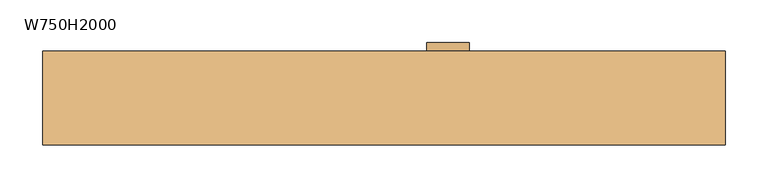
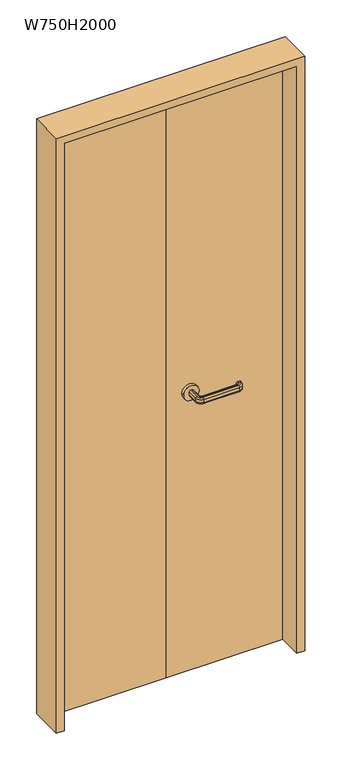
"""IFC4 building model written with IfcOpenShell, lengths in millimetres: door geometry, 両開き : W750H2000."""

from ifc_helpers import new_model, si_unit, point, frame, frame_2d, origin, origin_with_axes, place, context, project, spatial, polyline, circle_curve, ellipse_curve, trimmed, segment, composite_curve, outline, extrude, source, transform, mapped, element, save
from ifc_brep_helpers import plane_surface, cylinder_surface, revolved_surface, advanced_brep


def w750h2000_3b39e6d6(model_context):
    return source(origin(), model_context, "Body", "SolidModel", [
        advanced_brep(
        [(77.0, 15.0, 940.0), (73.0, 15.0, 940.0), (68.0, 15.0, 945.0), (68.0, 15.0, 955.0), (73.0, 15.0, 960.0), (77.0, 15.0, 960.0), (82.0, 15.0, 955.0), (82.0, 15.0, 945.0), (77.0, -20.0, 940.0), (85.0, -28.0, 940.0), (200.0, -28.0, 940.0), (208.0, -20.0, 940.0), (208.0, -15.0, 940.0), (212.0, -15.0, 940.0), (212.0, -20.0, 940.0), (200.0, -32.0, 940.0), (85.0, -32.0, 940.0), (73.0, -20.0, 940.0), (68.0, -20.0, 945.0), (68.0, -20.0, 955.0), (73.0, -20.0, 960.0), (85.0, -32.0, 960.0), (200.0, -32.0, 960.0), (212.0, -20.0, 960.0), (212.0, -15.0, 960.0), (208.0, -15.0, 960.0), (208.0, -20.0, 960.0), (200.0, -28.0, 960.0), (85.0, -28.0, 960.0), (77.0, -20.0, 960.0), (82.0, -20.0, 955.0), (82.0, -20.0, 945.0), (85.0, -37.0, 945.0), (85.0, -37.0, 955.0), (85.0, -23.0, 955.0), (85.0, -23.0, 945.0), (200.0, -37.0, 945.0), (200.0, -37.0, 955.0), (200.0, -23.0, 955.0), (200.0, -23.0, 945.0), (217.0, -20.0, 945.0), (217.0, -20.0, 955.0), (203.0, -20.0, 955.0), (203.0, -20.0, 945.0), (203.0, -15.0, 945.0), (203.0, -15.0, 955.0), (217.0, -15.0, 955.0), (217.0, -15.0, 945.0)],
        [
            (0, 1),
            (1, 2, circle_curve(frame((73.0, 15.0, 945.0), z_axis=(0.0, 1.0, 0.0), x_axis=(1.0, 0.0, 0.0)), 5.0)),
            (2, 3),
            (3, 4, circle_curve(frame((73.0, 15.0, 955.0), z_axis=(0.0, 1.0, 0.0), x_axis=(1.0, 0.0, 0.0)), 5.0)),
            (4, 5),
            (5, 6, circle_curve(frame((77.0, 15.0, 955.0), z_axis=(0.0, 1.0, 0.0), x_axis=(1.0, 0.0, 0.0)), 5.0)),
            (6, 7),
            (7, 0, circle_curve(frame((77.0, 15.0, 945.0), z_axis=(0.0, 1.0, 0.0), x_axis=(1.0, 0.0, 0.0)), 5.0)),
            (0, 8),
            (8, 9, circle_curve(frame((85.0, -20.0, 940.0), z_axis=(0.0, 0.0, 1.0), x_axis=(-1.0, 0.0, 0.0)), 8.0)),
            (9, 10),
            (10, 11, circle_curve(frame((200.0, -20.0, 940.0), z_axis=(0.0, 0.0, 1.0), x_axis=(0.0, -1.0, 0.0)), 8.0)),
            (11, 12),
            (12, 13),
            (13, 14),
            (14, 15, circle_curve(frame((200.0, -20.0, 940.0), z_axis=(0.0, 0.0, -1.0), x_axis=(0.0, -1.0, 0.0)), 12.0)),
            (15, 16),
            (16, 17, circle_curve(frame((85.0, -20.0, 940.0), z_axis=(0.0, 0.0, -1.0), x_axis=(-1.0, 0.0, 0.0)), 12.0)),
            (17, 1),
            (17, 18, circle_curve(frame((73.0, -20.0, 945.0), z_axis=(0.0, 1.0, 0.0), x_axis=(1.0, 0.0, 0.0)), 5.0)),
            (18, 2),
            (18, 19),
            (19, 3),
            (19, 20, circle_curve(frame((73.0, -20.0, 955.0), z_axis=(0.0, 1.0, 0.0), x_axis=(1.0, 0.0, 0.0)), 5.0)),
            (20, 4),
            (20, 21, circle_curve(frame((85.0, -20.0, 960.0), z_axis=(0.0, 0.0, 1.0), x_axis=(-1.0, 0.0, 0.0)), 12.0)),
            (21, 22),
            (22, 23, circle_curve(frame((200.0, -20.0, 960.0), z_axis=(0.0, 0.0, 1.0), x_axis=(0.0, -1.0, 0.0)), 12.0)),
            (23, 24),
            (24, 25),
            (25, 26),
            (26, 27, circle_curve(frame((200.0, -20.0, 960.0), z_axis=(0.0, 0.0, -1.0), x_axis=(0.0, -1.0, 0.0)), 8.0)),
            (27, 28),
            (28, 29, circle_curve(frame((85.0, -20.0, 960.0), z_axis=(0.0, 0.0, -1.0), x_axis=(-1.0, 0.0, 0.0)), 8.0)),
            (29, 5),
            (29, 30, circle_curve(frame((77.0, -20.0, 955.0), z_axis=(0.0, 1.0, 0.0), x_axis=(1.0, 0.0, 0.0)), 5.0)),
            (30, 6),
            (30, 31),
            (31, 7),
            (31, 8, circle_curve(frame((77.0, -20.0, 945.0), z_axis=(0.0, 1.0, 0.0), x_axis=(1.0, 0.0, 0.0)), 5.0)),
            (32, 18, circle_curve(frame((85.0, -20.0, 945.0), z_axis=(0.0, 0.0, -1.0), x_axis=(-1.0, 0.0, 0.0)), 17.0)),
            (16, 32, circle_curve(frame((85.0, -32.0, 945.0), z_axis=(-1.0, 0.0, 0.0), x_axis=(0.0, 1.0, 0.0)), 5.0)),
            (33, 19, circle_curve(frame((85.0, -20.0, 955.0), z_axis=(0.0, 0.0, -1.0), x_axis=(-1.0, 0.0, 0.0)), 17.0)),
            (32, 33),
            (33, 21, circle_curve(frame((85.0, -32.0, 955.0), z_axis=(-1.0, 0.0, 0.0), x_axis=(0.0, 1.0, 0.0)), 5.0)),
            (34, 30, circle_curve(frame((85.0, -20.0, 955.0), z_axis=(0.0, 0.0, -1.0), x_axis=(-1.0, 0.0, 0.0)), 3.0)),
            (28, 34, circle_curve(frame((85.0, -28.0, 955.0), z_axis=(-1.0, 0.0, 0.0), x_axis=(0.0, 1.0, 0.0)), 5.0)),
            (35, 31, circle_curve(frame((85.0, -20.0, 945.0), z_axis=(0.0, 0.0, -1.0), x_axis=(-1.0, 0.0, 0.0)), 3.0)),
            (34, 35),
            (35, 9, circle_curve(frame((85.0, -28.0, 945.0), z_axis=(-1.0, 0.0, 0.0), x_axis=(0.0, 1.0, 0.0)), 5.0)),
            (15, 36, circle_curve(frame((200.0, -32.0, 945.0), z_axis=(-1.0, 0.0, 0.0), x_axis=(0.0, 1.0, 0.0)), 5.0)),
            (36, 32),
            (36, 37),
            (37, 33),
            (37, 22, circle_curve(frame((200.0, -32.0, 955.0), z_axis=(-1.0, 0.0, 0.0), x_axis=(0.0, 1.0, 0.0)), 5.0)),
            (27, 38, circle_curve(frame((200.0, -28.0, 955.0), z_axis=(-1.0, 0.0, 0.0), x_axis=(0.0, 1.0, 0.0)), 5.0)),
            (38, 34),
            (38, 39),
            (39, 35),
            (39, 10, circle_curve(frame((200.0, -28.0, 945.0), z_axis=(-1.0, 0.0, 0.0), x_axis=(0.0, 1.0, 0.0)), 5.0)),
            (40, 36, circle_curve(frame((200.0, -20.0, 945.0), z_axis=(0.0, 0.0, -1.0), x_axis=(0.0, -1.0, 0.0)), 17.0)),
            (14, 40, circle_curve(frame((212.0, -20.0, 945.0), z_axis=(0.0, -1.0, 0.0), x_axis=(-1.0, 0.0, 0.0)), 5.0)),
            (41, 37, circle_curve(frame((200.0, -20.0, 955.0), z_axis=(0.0, 0.0, -1.0), x_axis=(0.0, -1.0, 0.0)), 17.0)),
            (40, 41),
            (41, 23, circle_curve(frame((212.0, -20.0, 955.0), z_axis=(0.0, -1.0, 0.0), x_axis=(-1.0, 0.0, 0.0)), 5.0)),
            (42, 38, circle_curve(frame((200.0, -20.0, 955.0), z_axis=(0.0, 0.0, -1.0), x_axis=(0.0, -1.0, 0.0)), 3.0)),
            (26, 42, circle_curve(frame((208.0, -20.0, 955.0), z_axis=(0.0, -1.0, 0.0), x_axis=(-1.0, 0.0, 0.0)), 5.0)),
            (43, 39, circle_curve(frame((200.0, -20.0, 945.0), z_axis=(0.0, 0.0, -1.0), x_axis=(0.0, -1.0, 0.0)), 3.0)),
            (42, 43),
            (43, 11, circle_curve(frame((208.0, -20.0, 945.0), z_axis=(0.0, -1.0, 0.0), x_axis=(-1.0, 0.0, 0.0)), 5.0)),
            (12, 44, circle_curve(frame((208.0, -15.0, 945.0), z_axis=(0.0, 1.0, 0.0), x_axis=(-1.0, 0.0, 0.0)), 5.0)),
            (44, 45),
            (45, 25, circle_curve(frame((208.0, -15.0, 955.0), z_axis=(0.0, 1.0, 0.0), x_axis=(-1.0, 0.0, 0.0)), 5.0)),
            (24, 46, circle_curve(frame((212.0, -15.0, 955.0), z_axis=(0.0, 1.0, 0.0), x_axis=(-1.0, 0.0, 0.0)), 5.0)),
            (46, 47),
            (47, 13, circle_curve(frame((212.0, -15.0, 945.0), z_axis=(0.0, 1.0, 0.0), x_axis=(-1.0, 0.0, 0.0)), 5.0)),
            (47, 40),
            (46, 41),
            (45, 42),
            (44, 43),
        ],
        [
            plane_surface(frame((64.801961, 15.0, 950.0), z_axis=(0.0, 1.0, 0.0), x_axis=(0.0, 0.0, -1.0))),
            plane_surface(frame((77.0, 15.0, 940.0), z_axis=(0.0, 0.0, -1.0), x_axis=(0.0, -1.0, 0.0))),
            cylinder_surface(frame((73.0, 15.0, 945.0), z_axis=(0.0, 1.0, 0.0), x_axis=(1.0, 0.0, 0.0)), 5.0),
            plane_surface(frame((68.0, 15.0, 945.0), z_axis=(-1.0, 0.0, 0.0), x_axis=(0.0, -1.0, 0.0))),
            cylinder_surface(frame((73.0, 15.0, 955.0), z_axis=(0.0, 1.0, 0.0), x_axis=(1.0, 0.0, 0.0)), 5.0),
            plane_surface(frame((73.0, 15.0, 960.0), z_axis=(0.0, 0.0, 1.0), x_axis=(0.0, -1.0, 0.0))),
            cylinder_surface(frame((77.0, 15.0, 955.0), z_axis=(0.0, 1.0, 0.0), x_axis=(1.0, 0.0, 0.0)), 5.0),
            plane_surface(frame((82.0, 15.0, 955.0), z_axis=(1.0, 0.0, 0.0), x_axis=(0.0, -1.0, 0.0))),
            cylinder_surface(frame((77.0, 15.0, 945.0), z_axis=(0.0, 1.0, 0.0), x_axis=(1.0, 0.0, 0.0)), 5.0),
            revolved_surface(trimmed(ellipse_curve(frame((73.0, -20.0, 945.0), z_axis=(0.0, 1.0, 0.0), x_axis=(1.0, 0.0, 0.0)), 5.0, 5.0), [point((73.0, -20.0, 940.0))], [point((68.0, -20.0, 945.0))], True, "CARTESIAN"), (85.0, -20.0, 950.0), (0.0, 0.0, 1.0)),
            cylinder_surface(frame((85.0, -20.0, 950.0), z_axis=(0.0, 0.0, 1.0), x_axis=(-1.0, 0.0, 0.0)), 17.0),
            revolved_surface(trimmed(ellipse_curve(frame((73.0, -20.0, 955.0), z_axis=(0.0, 1.0, 0.0), x_axis=(1.0, 0.0, 0.0)), 5.0, 5.0), [point((68.0, -20.0, 955.0))], [point((73.0, -20.0, 960.0))], True, "CARTESIAN"), (85.0, -20.0, 950.0), (0.0, 0.0, 1.0)),
            revolved_surface(trimmed(ellipse_curve(frame((77.0, -20.0, 955.0), z_axis=(0.0, 1.0, 0.0), x_axis=(1.0, 0.0, 0.0)), 5.0, 5.0), [point((77.0, -20.0, 960.0))], [point((82.0, -20.0, 955.0))], True, "CARTESIAN"), (85.0, -20.0, 950.0), (0.0, 0.0, 1.0)),
            revolved_surface(polyline([(82.0, -20.0, 955.0), (82.0, -20.0, 945.0)]), (85.0, -20.0, 950.0), (0.0, 0.0, 1.0)),
            revolved_surface(trimmed(ellipse_curve(frame((77.0, -20.0, 945.0), z_axis=(0.0, 1.0, 0.0), x_axis=(1.0, 0.0, 0.0)), 5.0, 5.0), [point((82.0, -20.0, 945.0))], [point((77.0, -20.0, 940.0))], True, "CARTESIAN"), (85.0, -20.0, 950.0), (0.0, 0.0, 1.0)),
            cylinder_surface(frame((85.0, -32.0, 945.0), z_axis=(-1.0, 0.0, 0.0), x_axis=(0.0, 1.0, 0.0)), 5.0),
            plane_surface(frame((85.0, -37.0, 945.0), z_axis=(0.0, -1.0, 0.0), x_axis=(1.0, 0.0, 0.0))),
            cylinder_surface(frame((85.0, -32.0, 955.0), z_axis=(-1.0, 0.0, 0.0), x_axis=(0.0, 1.0, 0.0)), 5.0),
            cylinder_surface(frame((85.0, -28.0, 955.0), z_axis=(-1.0, 0.0, 0.0), x_axis=(0.0, 1.0, 0.0)), 5.0),
            plane_surface(frame((85.0, -23.0, 955.0), z_axis=(0.0, 1.0, 0.0), x_axis=(1.0, 0.0, 0.0))),
            cylinder_surface(frame((85.0, -28.0, 945.0), z_axis=(-1.0, 0.0, 0.0), x_axis=(0.0, 1.0, 0.0)), 5.0),
            revolved_surface(trimmed(ellipse_curve(frame((200.0, -32.0, 945.0), z_axis=(-1.0, 0.0, 0.0), x_axis=(0.0, 1.0, 0.0)), 5.0, 5.0), [point((200.0, -32.0, 940.0))], [point((200.0, -37.0, 945.0))], True, "CARTESIAN"), (200.0, -20.0, 950.0), (0.0, 0.0, 1.0)),
            cylinder_surface(frame((200.0, -20.0, 950.0), z_axis=(0.0, 0.0, 1.0), x_axis=(0.0, -1.0, 0.0)), 17.0),
            revolved_surface(trimmed(ellipse_curve(frame((200.0, -32.0, 955.0), z_axis=(-1.0, 0.0, 0.0), x_axis=(0.0, 1.0, 0.0)), 5.0, 5.0), [point((200.0, -37.0, 955.0))], [point((200.0, -32.0, 960.0))], True, "CARTESIAN"), (200.0, -20.0, 950.0), (0.0, 0.0, 1.0)),
            revolved_surface(trimmed(ellipse_curve(frame((200.0, -28.0, 955.0), z_axis=(-1.0, 0.0, 0.0), x_axis=(0.0, 1.0, 0.0)), 5.0, 5.0), [point((200.0, -28.0, 960.0))], [point((200.0, -23.0, 955.0))], True, "CARTESIAN"), (200.0, -20.0, 950.0), (0.0, 0.0, 1.0)),
            revolved_surface(polyline([(200.0, -23.0, 955.0), (200.0, -23.0, 945.0)]), (200.0, -20.0, 950.0), (0.0, 0.0, 1.0)),
            revolved_surface(trimmed(ellipse_curve(frame((200.0, -28.0, 945.0), z_axis=(-1.0, 0.0, 0.0), x_axis=(0.0, 1.0, 0.0)), 5.0, 5.0), [point((200.0, -23.0, 945.0))], [point((200.0, -28.0, 940.0))], True, "CARTESIAN"), (200.0, -20.0, 950.0), (0.0, 0.0, 1.0)),
            plane_surface(frame((199.801961, -15.0, 950.0), z_axis=(0.0, 1.0, 0.0), x_axis=(0.0, 0.0, 1.0))),
            cylinder_surface(frame((212.0, -20.0, 945.0), z_axis=(0.0, -1.0, 0.0), x_axis=(-1.0, 0.0, 0.0)), 5.0),
            plane_surface(frame((217.0, -20.0, 945.0), z_axis=(1.0, 0.0, 0.0), x_axis=(0.0, 1.0, 0.0))),
            cylinder_surface(frame((212.0, -20.0, 955.0), z_axis=(0.0, -1.0, 0.0), x_axis=(-1.0, 0.0, 0.0)), 5.0),
            cylinder_surface(frame((208.0, -20.0, 955.0), z_axis=(0.0, -1.0, 0.0), x_axis=(-1.0, 0.0, 0.0)), 5.0),
            plane_surface(frame((203.0, -20.0, 955.0), z_axis=(-1.0, 0.0, 0.0), x_axis=(0.0, 1.0, 0.0))),
            cylinder_surface(frame((208.0, -20.0, 945.0), z_axis=(0.0, -1.0, 0.0), x_axis=(-1.0, 0.0, 0.0)), 5.0),
        ],
        [
            (0, [[1, 2, 3, 4, 5, 6, 7, 8]]),
            (1, [[-1, 9, 10, 11, 12, 13, 14, 15, 16, 17, 18, 19]]),
            (2, [[-2, -19, 20, 21]]),
            (3, [[-3, -21, 22, 23]]),
            (4, [[-4, -23, 24, 25]]),
            (5, [[-5, -25, 26, 27, 28, 29, 30, 31, 32, 33, 34, 35]]),
            (6, [[-6, -35, 36, 37]]),
            (7, [[-7, -37, 38, 39]]),
            (8, [[-8, -39, 40, -9]]),
            (9, [[41, -20, -18, 42]]),
            (10, [[43, -22, -41, 44]]),
            (11, [[-26, -24, -43, 45]]),
            (12, [[46, -36, -34, 47]]),
            (13, [[48, -38, -46, 49]]),
            (14, [[-10, -40, -48, 50]]),
            (15, [[-42, -17, 51, 52]]),
            (16, [[-44, -52, 53, 54]]),
            (17, [[-45, -54, 55, -27]]),
            (18, [[-47, -33, 56, 57]]),
            (19, [[-49, -57, 58, 59]]),
            (20, [[-50, -59, 60, -11]]),
            (21, [[61, -51, -16, 62]]),
            (22, [[63, -53, -61, 64]]),
            (23, [[-28, -55, -63, 65]]),
            (24, [[66, -56, -32, 67]]),
            (25, [[68, -58, -66, 69]]),
            (26, [[-12, -60, -68, 70]]),
            (27, [[71, 72, 73, -30, 74, 75, 76, -14]]),
            (28, [[-62, -15, -76, 77]]),
            (29, [[-64, -77, -75, 78]]),
            (30, [[-65, -78, -74, -29]]),
            (31, [[-67, -31, -73, 79]]),
            (32, [[-69, -79, -72, 80]]),
            (33, [[-70, -80, -71, -13]]),
        ],
    ),
        extrude(outline(composite_curve([segment(trimmed(circle_curve(frame_2d((950.0, 75.0)), 25.0), [point((950.0, 50.0))], [point((950.0, 100.0))], False, "CARTESIAN"), True, "CONTINUOUS"), segment(trimmed(circle_curve(frame_2d((950.0, 75.0)), 25.0), [point((950.0, 100.0))], [point((950.0, 50.0))], False, "CARTESIAN"), True, "CONTINUOUS")], self_intersect=False)), frame((0.0, 55.0, 0.0), z_axis=(0.0, 1.0, 0.0), x_axis=(0.0, 0.0, 1.0)), (0.0, 0.0, 1.0), 10.0),
        extrude(outline(composite_curve([segment(trimmed(circle_curve(frame_2d((950.0, 75.0)), 25.0), [point((950.0, 50.0))], [point((950.0, 100.0))], False, "CARTESIAN"), True, "CONTINUOUS"), segment(trimmed(circle_curve(frame_2d((950.0, 75.0)), 25.0), [point((950.0, 100.0))], [point((950.0, 50.0))], False, "CARTESIAN"), True, "CONTINUOUS")], self_intersect=False)), frame((0.0, 15.0, 0.0), z_axis=(0.0, 1.0, 0.0), x_axis=(0.0, 0.0, 1.0)), (0.0, 0.0, 1.0), 10.0),
        extrude(outline(polyline([(375.0, 25.0), (0.0, 25.0), (0.0, 55.0), (375.0, 55.0), (375.0, 25.0)])), origin_with_axes(), (0.0, 0.0, 1.0), 2000.0),
        extrude(outline(polyline([(2025.0, -400.0), (0.0, -400.0), (0.0, -375.0), (2000.0, -375.0), (2000.0, 375.0), (0.0, 375.0), (0.0, 400.0), (2025.0, 400.0), (2025.0, -400.0)])), frame((0.0, -55.0, 0.0), z_axis=(0.0, 1.0, 0.0), x_axis=(0.0, 0.0, 1.0)), (0.0, 0.0, 1.0), 110.0),
        extrude(outline(polyline([(0.0, 25.0), (-375.0, 25.0), (-375.0, 55.0), (0.0, 55.0), (0.0, 25.0)])), origin_with_axes(), (0.0, 0.0, 1.0), 2000.0),
    ])


if __name__ == "__main__":
    model = new_model("IFC4")
    model_context = context("Model", 3, world=origin())
    ifc_project = project(units=[si_unit("LENGTHUNIT", "METRE", prefix="MILLI")], contexts=[model_context])
    site = spatial("IfcSite", under=ifc_project)
    building = spatial("IfcBuilding", under=site)
    placement = place(None, origin())
    w750h2000_shape = w750h2000_3b39e6d6(model_context)
    element("IfcDoor", 1, ObjectType="両開き : W750H2000", at=placement, inside=building, context=model_context, shape_type="MappedRepresentation", body=[
        mapped(w750h2000_shape, transform((0.0, 0.0, 0.0), x_axis=(1.0, 0.0, 0.0), y_axis=(0.0, 1.0, 0.0), z_axis=(0.0, 0.0, 1.0))),
    ])
    save(model, "model.ifc")
